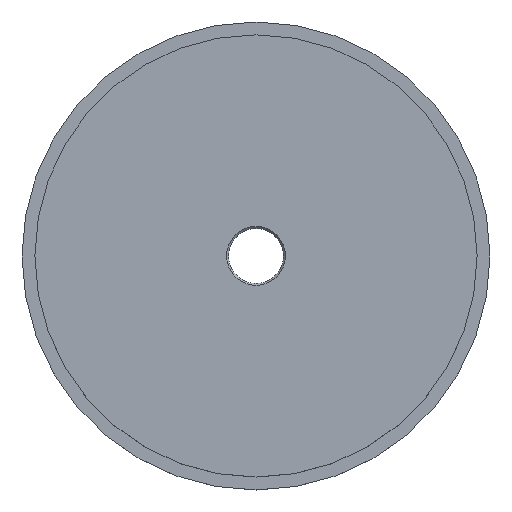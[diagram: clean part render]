
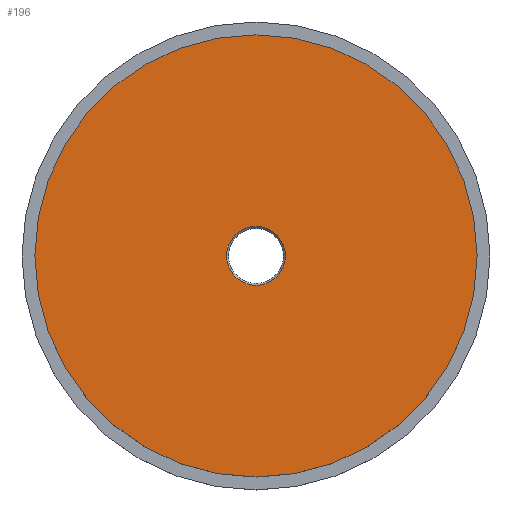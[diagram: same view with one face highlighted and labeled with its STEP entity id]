
A CAD part, top view. The second image highlights one B-rep face of the part: STEP entity #196.
In plain terms, the highlighted planar face has unit normal (0, 0, 1).
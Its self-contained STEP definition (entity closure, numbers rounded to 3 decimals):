
#165=CARTESIAN_POINT('',(7.975,0.,15.0));
#166=VERTEX_POINT('',#165);
#167=CARTESIAN_POINT('',(0.0,0.0,15.0));
#168=DIRECTION('',(0.0,0.0,1.0));
#169=DIRECTION('',(-1.0,0.0,0.0));
#170=AXIS2_PLACEMENT_3D('',#167,#168,#169);
#171=CIRCLE('',#170,7.975);
#172=EDGE_CURVE('',#166,#166,#171,.T.);
#177=CARTESIAN_POINT('',(0.0,0.0,15.0));
#178=DIRECTION('',(0.0,0.0,-1.0));
#179=DIRECTION('',(-1.0,0.0,0.0));
#180=AXIS2_PLACEMENT_3D('',#177,#178,#179);
#181=PLANE('',#180);
#182=CARTESIAN_POINT('',(60.0,0.,15.0));
#183=VERTEX_POINT('',#182);
#184=CARTESIAN_POINT('',(0.0,0.0,15.0));
#185=DIRECTION('',(0.0,0.0,-1.0));
#186=DIRECTION('',(-1.0,0.0,0.0));
#187=AXIS2_PLACEMENT_3D('',#184,#185,#186);
#188=CIRCLE('',#187,60.0);
#189=EDGE_CURVE('',#183,#183,#188,.T.);
#190=ORIENTED_EDGE('',*,*,#189,.F.);
#191=EDGE_LOOP('',(#190));
#192=FACE_OUTER_BOUND('',#191,.T.);
#193=ORIENTED_EDGE('',*,*,#172,.F.);
#194=EDGE_LOOP('',(#193));
#195=FACE_BOUND('',#194,.T.);
#196=ADVANCED_FACE('',(#192,#195),#181,.F.);
